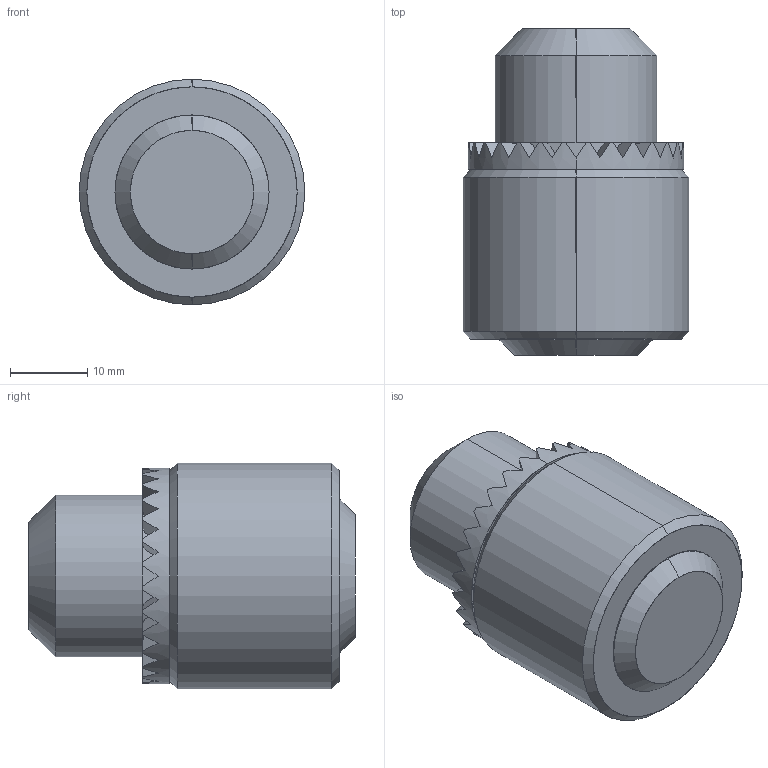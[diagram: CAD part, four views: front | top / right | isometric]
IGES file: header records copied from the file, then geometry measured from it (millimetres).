
Start section: SolidWorks IGES file using analytic representation for surfaces
Global section: file name: R:\Inventor\Kundmodeller Solidworks\Chuckar\041J004003 keychuck 0,5-6,5mm.IGS; native system: SolidWorks 2008; preprocessor: SolidWorks 2008; author: Johan; date: 090903.160035; units: centimetre
Bounding box: 29.3 x 42.4 x 29.3 mm (x, y, z)
Surface area: 5018.2 mm2 (no closed solid volume)
Topology: 0 solids, 0 shells, 139 faces, 1046 edges, 1044 vertices
Faces by surface type: bspline 119, revolution 20
